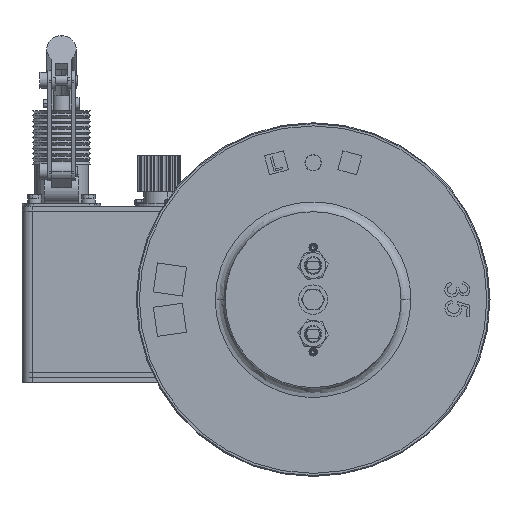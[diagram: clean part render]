
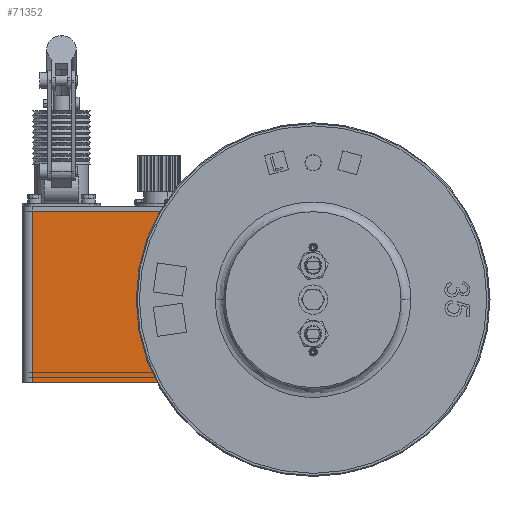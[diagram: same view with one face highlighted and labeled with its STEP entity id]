
A CAD part, left-side view. The second image highlights one B-rep face of the part: STEP entity #71352.
In plain terms, the highlighted planar face has unit normal (-1, 0, 0).
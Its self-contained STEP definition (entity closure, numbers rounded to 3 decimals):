
#414 = PLANE ( 'NONE',  #87764 ) ;
#502 = DIRECTION ( 'NONE',  ( 0., 0., -1. ) ) ;
#8777 = VECTOR ( 'NONE', #15397, 1000. ) ;
#15397 = DIRECTION ( 'NONE',  ( 0., 1., 0. ) ) ;
#20158 = VECTOR ( 'NONE', #502, 1000. ) ;
#24323 = CARTESIAN_POINT ( 'NONE',  ( -90., 150., -27. ) ) ;
#25416 = CARTESIAN_POINT ( 'NONE',  ( -90., 310., 148. ) ) ;
#31472 = FACE_OUTER_BOUND ( 'NONE', #66478, .T. ) ;
#38602 = DIRECTION ( 'NONE',  ( 1., 0., 0. ) ) ;
#39269 = ORIENTED_EDGE ( 'NONE', *, *, #47531, .F. ) ;
#40704 = LINE ( 'NONE', #63180, #20158 ) ;
#41416 = EDGE_CURVE ( 'NONE', #64267, #43501, #76085, .T. ) ;
#41736 = VECTOR ( 'NONE', #69547, 1000. ) ;
#43501 = VERTEX_POINT ( 'NONE', #44403 ) ;
#44403 = CARTESIAN_POINT ( 'NONE',  ( -90., 310., -27. ) ) ;
#47531 = EDGE_CURVE ( 'NONE', #56340, #64267, #60423, .T. ) ;
#52967 = ORIENTED_EDGE ( 'NONE', *, *, #53236, .T. ) ;
#53236 = EDGE_CURVE ( 'NONE', #89066, #43501, #40704, .T. ) ;
#55948 = DIRECTION ( 'NONE',  ( 0., 1., 0. ) ) ;
#56340 = VERTEX_POINT ( 'NONE', #64955 ) ;
#59254 = LINE ( 'NONE', #91368, #78652 ) ;
#60423 = LINE ( 'NONE', #100709, #41736 ) ;
#63180 = CARTESIAN_POINT ( 'NONE',  ( -90., 310., 60.5 ) ) ;
#64267 = VERTEX_POINT ( 'NONE', #82942 ) ;
#64955 = CARTESIAN_POINT ( 'NONE',  ( -90., 150., 148. ) ) ;
#65247 = ORIENTED_EDGE ( 'NONE', *, *, #41416, .F. ) ;
#66478 = EDGE_LOOP ( 'NONE', ( #39269, #70070, #52967, #65247 ) ) ;
#69547 = DIRECTION ( 'NONE',  ( 0., 0., -1. ) ) ;
#70070 = ORIENTED_EDGE ( 'NONE', *, *, #78907, .T. ) ;
#71352 = ADVANCED_FACE ( 'NONE', ( #31472 ), #414, .F. ) ;
#76085 = LINE ( 'NONE', #91911, #8777 ) ;
#78652 = VECTOR ( 'NONE', #83230, 1000. ) ;
#78907 = EDGE_CURVE ( 'NONE', #56340, #89066, #59254, .T. ) ;
#82942 = CARTESIAN_POINT ( 'NONE',  ( -90., 150., -27. ) ) ;
#83230 = DIRECTION ( 'NONE',  ( 0., 1., 0. ) ) ;
#87764 = AXIS2_PLACEMENT_3D ( 'NONE', #24323, #38602, #55948 ) ;
#89066 = VERTEX_POINT ( 'NONE', #25416 ) ;
#91368 = CARTESIAN_POINT ( 'NONE',  ( -90., 230., 148. ) ) ;
#91911 = CARTESIAN_POINT ( 'NONE',  ( -90., 230., -27. ) ) ;
#100709 = CARTESIAN_POINT ( 'NONE',  ( -90., 150., 60.5 ) ) ;
